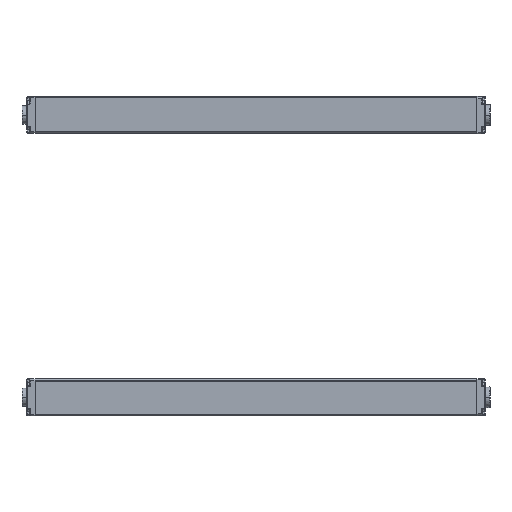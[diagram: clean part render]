
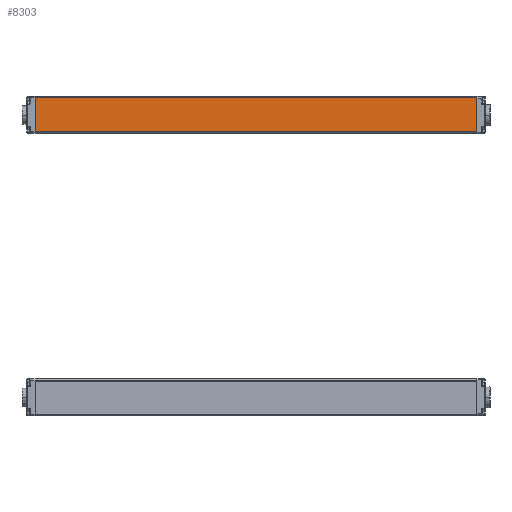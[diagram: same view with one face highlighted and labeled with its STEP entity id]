
A CAD part, left-side view. The second image highlights one B-rep face of the part: STEP entity #8303.
In plain terms, the highlighted planar face has unit normal (-1, 0, -0.009) as drawn and (-1, 0, 0) by its records, which use the part's own axes.
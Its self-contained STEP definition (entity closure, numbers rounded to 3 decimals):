
#32 = PLANE ( 'NONE',  #8398 ) ;
#170 = CARTESIAN_POINT ( 'NONE',  ( -15., 360., -16.693 ) ) ;
#947 = ORIENTED_EDGE ( 'NONE', *, *, #12362, .F. ) ;
#2108 = VERTEX_POINT ( 'NONE', #3551 ) ;
#2427 = VECTOR ( 'NONE', #9386, 1000. ) ;
#2664 = VERTEX_POINT ( 'NONE', #16171 ) ;
#2673 = CARTESIAN_POINT ( 'NONE',  ( -15., 0., -16.9 ) ) ;
#3551 = CARTESIAN_POINT ( 'NONE',  ( -15., 360., -16.693 ) ) ;
#3830 = CARTESIAN_POINT ( 'NONE',  ( -15., 360., 10.9 ) ) ;
#3909 = CARTESIAN_POINT ( 'NONE',  ( -15., 360., -16.9 ) ) ;
#5572 = CARTESIAN_POINT ( 'NONE',  ( -15., 360., -16.9 ) ) ;
#5596 = CARTESIAN_POINT ( 'NONE',  ( -15., 360., 10.9 ) ) ;
#5604 = ORIENTED_EDGE ( 'NONE', *, *, #16058, .F. ) ;
#5705 = DIRECTION ( 'NONE',  ( 0., -1., 0. ) ) ;
#6548 = ORIENTED_EDGE ( 'NONE', *, *, #10413, .T. ) ;
#7935 = VECTOR ( 'NONE', #8224, 1000. ) ;
#8224 = DIRECTION ( 'NONE',  ( 0., 0., 1. ) ) ;
#8255 = VECTOR ( 'NONE', #5705, 1000. ) ;
#8303 = ADVANCED_FACE ( 'NONE', ( #12505 ), #32, .F. ) ;
#8398 = AXIS2_PLACEMENT_3D ( 'NONE', #5572, #11143, #16712 ) ;
#9240 = CARTESIAN_POINT ( 'NONE',  ( -15., 0., -16.693 ) ) ;
#9386 = DIRECTION ( 'NONE',  ( 0., -1., 0. ) ) ;
#9459 = DIRECTION ( 'NONE',  ( 0., 0., 1. ) ) ;
#9805 = VERTEX_POINT ( 'NONE', #5596 ) ;
#10413 = EDGE_CURVE ( 'NONE', #2108, #17097, #12644, .T. ) ;
#11143 = DIRECTION ( 'NONE',  ( 1., 0., 0. ) ) ;
#12362 = EDGE_CURVE ( 'NONE', #2108, #9805, #16393, .T. ) ;
#12505 = FACE_OUTER_BOUND ( 'NONE', #13592, .T. ) ;
#12644 = LINE ( 'NONE', #170, #8255 ) ;
#13592 = EDGE_LOOP ( 'NONE', ( #947, #6548, #16605, #5604 ) ) ;
#13862 = VECTOR ( 'NONE', #9459, 1000. ) ;
#15145 = LINE ( 'NONE', #2673, #7935 ) ;
#16058 = EDGE_CURVE ( 'NONE', #9805, #2664, #16316, .T. ) ;
#16171 = CARTESIAN_POINT ( 'NONE',  ( -15., 0., 10.9 ) ) ;
#16316 = LINE ( 'NONE', #3830, #2427 ) ;
#16393 = LINE ( 'NONE', #3909, #13862 ) ;
#16605 = ORIENTED_EDGE ( 'NONE', *, *, #17185, .T. ) ;
#16712 = DIRECTION ( 'NONE',  ( 0., 0., -1. ) ) ;
#17097 = VERTEX_POINT ( 'NONE', #9240 ) ;
#17185 = EDGE_CURVE ( 'NONE', #17097, #2664, #15145, .T. ) ;
